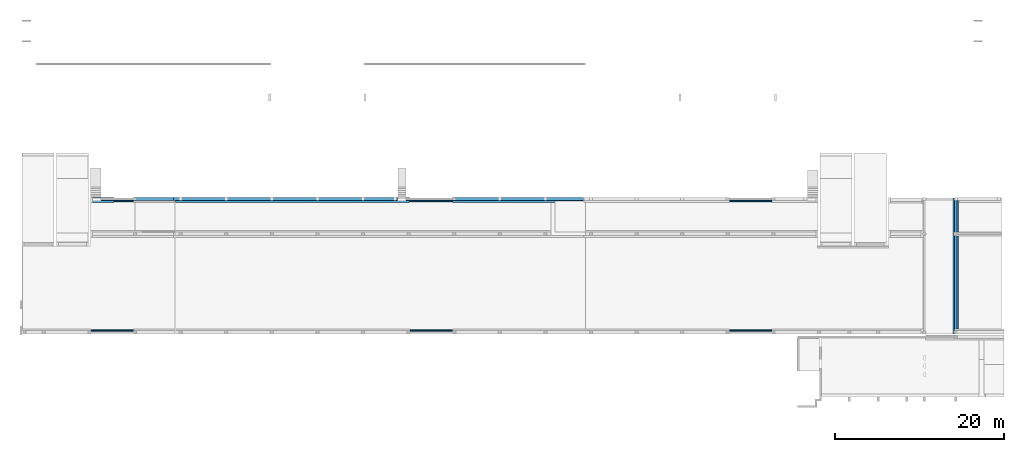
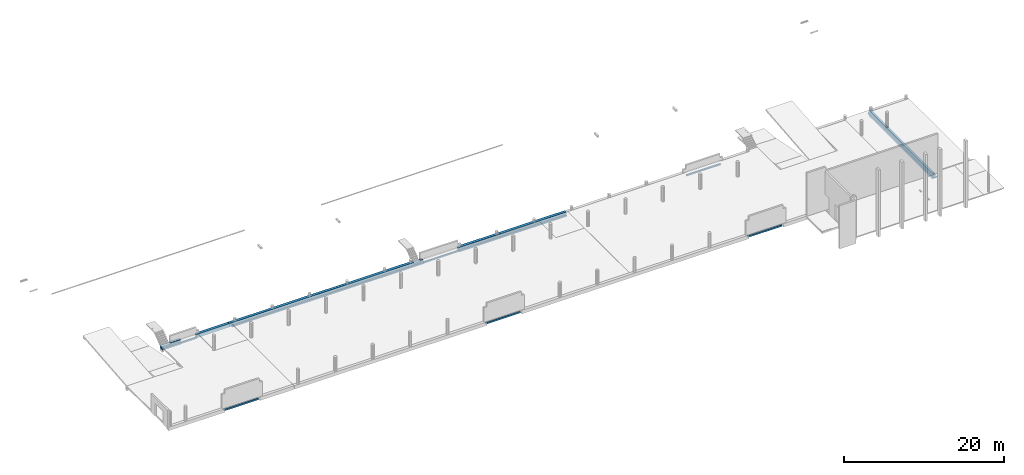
# One storey, part 7 of 9: 6 walls, 5 beams.
"""IFC2X3 building model written with IfcOpenShell, lengths in millimetres."""

from ifc_helpers import new_model, entity, si_unit, converted_unit, derived_unit, direction, frame, origin, place, context, subcontext, project, spatial, faceted_brep, material, type_object, element, save


model = new_model("IFC2X3")

# Units and contexts
model_context = context("Model", 3, precision=0.01, world=origin(), true_north=direction((6.12303176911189e-17, 1.0)))
body_context = subcontext(model_context, "Body", "Model", "MODEL_VIEW")
ifc_project = project(units=[si_unit("LENGTHUNIT", "METRE", prefix="MILLI"), si_unit("AREAUNIT", "SQUARE_METRE"), si_unit("VOLUMEUNIT", "CUBIC_METRE"), converted_unit("PLANEANGLEUNIT", "DEGREE", entity("IfcRatioMeasure", 0.0174532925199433), si_unit("PLANEANGLEUNIT", "RADIAN"), dimensions=[0, 0, 0, 0, 0, 0, 0]), si_unit("MASSUNIT", "GRAM", prefix="KILO"), derived_unit("MASSDENSITYUNIT", [(si_unit("MASSUNIT", "GRAM", prefix="KILO"), 1), (si_unit("LENGTHUNIT", "METRE"), -3)]), si_unit("TIMEUNIT", "SECOND"), si_unit("FREQUENCYUNIT", "HERTZ"), si_unit("THERMODYNAMICTEMPERATUREUNIT", "DEGREE_CELSIUS"), derived_unit("THERMALTRANSMITTANCEUNIT", [(si_unit("MASSUNIT", "GRAM", prefix="KILO"), 1), (si_unit("THERMODYNAMICTEMPERATUREUNIT", "KELVIN"), -1), (si_unit("TIMEUNIT", "SECOND"), -3)]), derived_unit("VOLUMETRICFLOWRATEUNIT", [(si_unit("LENGTHUNIT", "METRE"), 3), (si_unit("TIMEUNIT", "SECOND"), -1)]), si_unit("ELECTRICCURRENTUNIT", "AMPERE"), si_unit("ELECTRICVOLTAGEUNIT", "VOLT"), si_unit("POWERUNIT", "WATT"), si_unit("FORCEUNIT", "NEWTON", prefix="KILO"), si_unit("ILLUMINANCEUNIT", "LUX"), si_unit("LUMINOUSFLUXUNIT", "LUMEN"), si_unit("LUMINOUSINTENSITYUNIT", "CANDELA"), derived_unit("USERDEFINED", [(si_unit("MASSUNIT", "GRAM", prefix="KILO"), -1), (si_unit("LENGTHUNIT", "METRE"), -2), (si_unit("TIMEUNIT", "SECOND"), 3), (si_unit("LUMINOUSFLUXUNIT", "LUMEN"), 1)]), derived_unit("LINEARVELOCITYUNIT", [(si_unit("LENGTHUNIT", "METRE"), 1), (si_unit("TIMEUNIT", "SECOND"), -1)]), si_unit("PRESSUREUNIT", "PASCAL"), derived_unit("USERDEFINED", [(si_unit("LENGTHUNIT", "METRE"), -2), (si_unit("MASSUNIT", "GRAM", prefix="KILO"), 1), (si_unit("TIMEUNIT", "SECOND"), -2)])], contexts=[model_context])

# Site, building, storey
site_placement = place(None, origin())
site = spatial("IfcSite", under=ifc_project, at=site_placement, Name="Default", CompositionType="ELEMENT")
building_placement = place(site_placement, origin())
building = spatial("IfcBuilding", under=site, at=building_placement, Name="niet gebruiken", CompositionType="ELEMENT")
storey_placement = place(building_placement, frame((0.0, 0.0, 5570.0)))
storey = spatial("IfcBuildingStorey", under=building, at=storey_placement, Name="01b tweede tussenverdieping", CompositionType="ELEMENT", Elevation=5570.0)

# Beams
ifc_material = material(Name="NLRS_f2_beton prefab")
beam_type_1 = type_object("IfcBeamType", Name="NLRS_28.11_SF_WPB_prefabbeton balk enkele sponning_gen:600x540/200x200", PredefinedType="BEAM")
beam_1_placement = place(storey_placement, frame((26150.0, 24576.0, -530.0)))
element("IfcBeam", 1, at=beam_1_placement, inside=storey, type_object=beam_type_1, material=ifc_material, Name="NLRS_28.11_SF_WPB_prefabbeton balk enkele sponning_gen:600x540/200x200", ObjectType="NLRS_28.11_SF_WPB_prefabbeton balk enkele sponning_gen:600x540/200x200", context=body_context, shape_type="Brep", body=[
    faceted_brep([(0.0, 200.0, 540.0), (0.0, 600.0, 540.0), (0.0, 600.0, 0.0), (0.0, 200.0, 0.0), (0.0, 200.0, 460.0), (0.0, 200.0, 530.0), (27950.0, 200.0, 200.0), (27950.0, 0.0, 200.0), (27950.0, 0.0, 0.0), (27950.0, 600.0, 0.0), (27950.0, 600.0, 540.0), (27950.0, 200.0, 540.0), (27950.0, 200.0, 530.0), (27950.0, 275.0, 530.0), (27950.0, 275.0, 460.0), (27950.0, 200.0, 460.0), (26550.0, 200.0, 540.0), (26550.0, 600.0, 540.0), (27540.0, 200.0, 460.0), (27540.0, 200.0, 390.0), (26550.0, 200.0, 390.0), (26550.0, 200.0, 460.0), (26550.0, 200.0, 530.0), (220.0, 200.0, 0.0), (220.0, 200.0, 200.0), (220.0, 0.0, 200.0), (220.0, 0.0, 0.0), (26550.0, 600.0, 390.0), (27540.0, 600.0, 390.0), (27540.0, 600.0, 540.0), (27540.0, 275.0, 460.0), (27540.0, 200.0, 540.0), (27540.0, 275.0, 530.0), (27540.0, 200.0, 530.0)], [[[0, 1, 2, 3, 4, 5]], [[6, 7, 8, 9, 10, 11, 12, 13, 14, 15]], [[1, 0, 16, 17]], [[6, 15, 18, 19, 20, 21, 22, 16, 0, 5, 4, 3, 23, 24]], [[7, 6, 24, 25]], [[8, 7, 25, 26]], [[9, 8, 26, 23, 3, 2]], [[2, 1, 17, 27, 28, 29, 10, 9]], [[18, 15, 14, 30]], [[31, 29, 28, 19, 18, 30, 32, 33]], [[17, 16, 22, 21, 20, 27]], [[14, 13, 32, 30]], [[12, 33, 32, 13]], [[11, 10, 29, 31]], [[12, 11, 31, 33]], [[24, 23, 26, 25]], [[27, 20, 19, 28]]]),
])
beam_2_placement = place(storey_placement, frame((16345.0, 24576.0, -530.0)))
element("IfcBeam", 2, at=beam_2_placement, inside=storey, type_object=beam_type_1, material=ifc_material, Name="NLRS_28.11_SF_WPB_prefabbeton balk enkele sponning_gen:600x540/200x200", ObjectType="NLRS_28.11_SF_WPB_prefabbeton balk enkele sponning_gen:600x540/200x200", context=body_context, shape_type="Brep", body=[
    faceted_brep([(0.0, 600.0, 0.0), (0.0, 0.0, 0.0), (0.0, 0.0, 200.0), (0.0, 200.0, 200.0), (0.0, 200.0, 390.0), (0.0, 600.0, 390.0), (2755.0, 200.0, 200.0), (2755.0, 0.0, 200.0), (2755.0, 0.0, 0.0), (2755.0, 600.0, 0.0), (2755.0, 600.0, 540.0), (2755.0, 200.0, 540.0), (2755.0, 200.0, 530.0), (2755.0, 275.0, 530.0), (2755.0, 275.0, 460.0), (2755.0, 255.0, 460.0), (2755.0, 255.0, 205.0), (2755.0, 200.0, 205.0), (1250.0, 600.0, 540.0), (1250.0, 200.0, 540.0), (1250.0, 200.0, 530.0), (1250.0, 600.0, 390.0), (1250.0, 275.0, 460.0), (1250.0, 255.0, 460.0), (1250.0, 275.0, 530.0), (1250.0, 200.0, 205.0), (1250.0, 200.0, 390.0), (1250.0, 255.0, 390.0), (1250.0, 255.0, 205.0)], [[[0, 1, 2, 3, 4, 5]], [[6, 7, 8, 9, 10, 11, 12, 13, 14, 15, 16, 17]], [[11, 10, 18, 19]], [[12, 11, 19, 20]], [[3, 2, 7, 6]], [[2, 1, 8, 7]], [[1, 0, 9, 8]], [[10, 9, 0, 5, 21, 18]], [[14, 22, 23, 15]], [[22, 14, 13, 24]], [[24, 13, 12, 20]], [[3, 6, 17, 25, 26, 4]], [[19, 18, 21, 27, 23, 22, 24, 20]], [[16, 28, 25, 17]], [[28, 27, 26, 25]], [[27, 28, 16, 15, 23]], [[5, 4, 26, 27, 21]]]),
])
beam_3_placement = place(storey_placement, frame((59200.0, 24576.0, -530.0)))
element("IfcBeam", 3, at=beam_3_placement, inside=storey, type_object=beam_type_1, material=ifc_material, Name="NLRS_28.11_SF_WPB_prefabbeton balk enkele sponning_gen:600x540/200x200", ObjectType="NLRS_28.11_SF_WPB_prefabbeton balk enkele sponning_gen:600x540/200x200", context=body_context, shape_type="Brep", body=[
    faceted_brep([(0.0, 600.0, 0.0), (0.0, 0.0, 0.0), (0.0, 0.0, 200.0), (0.0, 200.0, 200.0), (0.0, 200.0, 460.0), (0.0, 275.0, 460.0), (0.0, 275.0, 530.0), (0.0, 200.0, 530.0), (0.0, 200.0, 540.0), (0.0, 600.0, 540.0), (15530.0, 200.0, 200.0), (15530.0, 0.0, 200.0), (15530.0, 0.0, 0.0), (15530.0, 600.0, 0.0), (15530.0, 600.0, 540.0), (15530.0, 200.0, 540.0), (15530.0, 200.0, 530.0), (15530.0, 200.0, 460.0), (11650.0, 200.0, 530.0), (11650.0, 200.0, 460.0), (400.0, 600.0, 460.0), (11650.0, 600.0, 460.0), (11650.0, 600.0, 530.0), (400.0, 600.0, 530.0), (400.0, 275.0, 460.0), (400.0, 275.0, 530.0)], [[[0, 1, 2, 3, 4, 5, 6, 7, 8, 9]], [[10, 11, 12, 13, 14, 15, 16, 17]], [[9, 8, 15, 14]], [[15, 8, 7, 18, 19, 4, 3, 10, 17, 16]], [[3, 2, 11, 10]], [[2, 1, 12, 11]], [[1, 0, 13, 12]], [[0, 9, 14, 13], [20, 21, 22, 23]], [[20, 24, 5, 4, 19, 21]], [[21, 19, 18, 22]], [[24, 25, 6, 5]], [[24, 20, 23, 25]], [[25, 23, 22, 18, 7, 6]]]),
])
beam_type_2 = type_object("IfcBeamType", Name="NLRS_28.11_SF_WPB_prefabbeton balk dubbele sponning_gen:800x600/200x150/200x270", PredefinedType="BEAM")
beam_4_placement = place(storey_placement, frame((118450.0, 8996.0, -670.0), z_axis=(0.0, 0.0, 1.0), x_axis=(0.0, 1.0, 0.0)))
element("IfcBeam", 4, at=beam_4_placement, inside=storey, type_object=beam_type_2, material=ifc_material, Name="NLRS_28.11_SF_WPB_prefabbeton balk dubbele sponning_gen:800x600/200x150/200x270", ObjectType="NLRS_28.11_SF_WPB_prefabbeton balk dubbele sponning_gen:800x600/200x150/200x270", context=body_context, shape_type="Brep", body=[
    faceted_brep([(0.0, -200.0, 450.0), (0.0, 0.0, 450.0), (0.0, 0.0, 0.0), (0.0, -700.0, 0.0), (0.0, -700.0, 140.0), (0.0, -200.0, 140.0), (12100.0, -700.0, 330.0), (12100.0, -700.0, 0.0), (15855.0, -700.0, 0.0), (15855.0, -700.0, 120.0), (16105.0, -700.0, 120.0), (16105.0, -700.0, 330.0), (16105.0, -500.0, 600.0), (16105.0, -500.0, 330.0), (16105.0, 0.0, 120.0), (16105.0, 0.0, 450.0), (16105.0, -200.0, 450.0), (16105.0, -200.0, 600.0), (400.0, -200.0, 600.0), (400.0, -500.0, 600.0), (11750.0, -500.0, 600.0), (11750.0, -200.0, 600.0), (400.0, -200.0, 450.0), (11750.0, -200.0, 450.0), (11750.0, -105.0, 450.0), (11950.0, -105.0, 450.0), (11950.0, -200.0, 450.0), (400.0, -500.0, 340.0), (600.0, -500.0, 340.0), (600.0, -500.0, 330.0), (11600.0, -500.0, 330.0), (11750.0, -500.0, 330.0), (600.0, -700.0, 330.0), (11600.0, -700.0, 330.0), (15855.0, 0.0, 120.0), (15855.0, 0.0, 0.0), (12100.0, -105.0, 0.0), (11600.0, -105.0, 0.0), (11600.0, -700.0, 0.0), (600.0, -200.0, 340.0), (400.0, -200.0, 340.0), (600.0, -200.0, 140.0), (600.0, -700.0, 140.0), (12100.0, -105.0, 330.0), (11950.0, -105.0, 330.0), (11750.0, -105.0, 330.0), (11600.0, -105.0, 330.0), (11950.0, -500.0, 330.0), (11950.0, -500.0, 600.0), (11950.0, -200.0, 600.0), (12100.0, -500.0, 330.0)], [[[0, 1, 2, 3, 4, 5]], [[6, 7, 8, 9, 10, 11]], [[12, 13, 11, 10, 14, 15, 16, 17]], [[18, 19, 20, 21]], [[22, 18, 21, 23]], [[1, 0, 22, 23, 24, 25, 26, 16, 15]], [[19, 27, 28, 29, 30, 31, 20]], [[29, 32, 33, 30]], [[2, 1, 15, 14, 34, 35]], [[3, 2, 35, 8, 7, 36, 37, 38]], [[39, 40, 22, 0, 5, 41]], [[40, 27, 19, 18, 22]], [[40, 39, 28, 27]], [[39, 41, 42, 32, 29, 28]], [[41, 5, 4, 42]], [[43, 44, 25, 24, 45, 46, 37, 36]], [[37, 46, 30, 33, 38]], [[44, 47, 48, 49, 26, 25]], [[44, 43, 50, 47]], [[31, 45, 24, 23, 21, 20]], [[46, 45, 31, 30]], [[43, 36, 7, 6, 50]], [[32, 42, 4, 3, 38, 33]], [[12, 17, 49, 48]], [[17, 16, 26, 49]], [[13, 12, 48, 47, 50]], [[11, 13, 50, 6]], [[34, 9, 8, 35]], [[9, 34, 14, 10]]]),
])
beam_type_3 = type_object("IfcBeamType", Name="NLRS_28.11_SF_WPB_prefabbeton balk recht_gen:400x540", PredefinedType="BEAM")
beam_5_placement = place(storey_placement, frame((21400.0, 24776.0, -530.0)))
element("IfcBeam", 5, at=beam_5_placement, inside=storey, type_object=beam_type_3, material=ifc_material, Name="NLRS_28.11_SF_WPB_prefabbeton balk recht_gen:400x540", ObjectType="NLRS_28.11_SF_WPB_prefabbeton balk recht_gen:400x540", context=body_context, shape_type="Brep", body=[
    faceted_brep([(0.0, 0.0, 540.0), (0.0, 400.0, 540.0), (0.0, 400.0, 0.0), (0.0, 0.0, 0.0), (0.0, 0.0, 460.0), (0.0, 75.0, 460.0), (0.0, 75.0, 530.0), (0.0, 0.0, 530.0), (4730.0, 0.0, 540.0), (4730.0, 400.0, 540.0), (170.0, 0.0, 460.0), (170.0, 75.0, 460.0), (170.0, 75.0, 530.0), (170.0, 0.0, 530.0), (400.0, 75.0, 460.0), (200.0, 75.0, 460.0), (200.0, 0.0, 460.0), (400.0, 0.0, 460.0), (400.0, 75.0, 530.0), (400.0, 0.0, 530.0), (200.0, 0.0, 530.0), (200.0, 75.0, 530.0), (4730.0, 0.0, 530.0), (4730.0, 0.0, 460.0), (4730.0, 0.0, 0.0), (4730.0, 400.0, 0.0)], [[[0, 1, 2, 3, 4, 5, 6, 7]], [[8, 9, 1, 0]], [[10, 11, 5, 4]], [[6, 12, 13, 7]], [[12, 11, 10, 13]], [[11, 12, 6, 5]], [[14, 15, 16, 17]], [[18, 19, 20, 21]], [[15, 21, 20, 16]], [[15, 14, 18, 21]], [[14, 17, 19, 18]], [[9, 8, 22, 23, 24, 25]], [[3, 24, 23, 22, 8, 0, 7, 13, 10, 4], [17, 16, 20, 19]], [[3, 2, 25, 24]], [[2, 1, 9, 25]]]),
])

# Walls
wall_type = type_object("IfcWallType", Name="NLRS_21.21_SF_WPB_oplegnok prefabbeton_gen:200x250 afschuining", PredefinedType="NOTDEFINED", material=ifc_material)
wall_1_placement = place(storey_placement, frame((16420.0, 9321.0, -580.0)))
element("IfcWall", 6, at=wall_1_placement, inside=storey, type_object=wall_type, material=ifc_material, Name="NLRS_21.21_SF_WPB_oplegnok prefabbeton_gen:200x250 afschuining", ObjectType="NLRS_21.21_SF_WPB_oplegnok prefabbeton_gen:200x250 afschuining", context=body_context, shape_type="Brep", body=[
    faceted_brep([(4.8512447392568e-09, 0.0, 250.0), (4.8512447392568e-09, 200.0, 250.0), (4.8512447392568e-09, 200.0, 49.9768447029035), (4.8512447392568e-09, 0.0, 0.0), (4.8512447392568e-09, 0.0, 30.0), (4960.0, 0.0, 250.0), (4960.0, 0.0, 30.0), (4960.0, 0.0, 0.0), (4960.0, 200.0, 49.9768447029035), (4960.0, 200.0, 250.0)], [[[0, 1, 2, 3, 4]], [[5, 6, 7, 8, 9]], [[3, 7, 6, 5, 0, 4]], [[1, 9, 8, 2]], [[0, 5, 9, 1]], [[2, 8, 7, 3]]]),
])
wall_2_placement = place(storey_placement, frame((19120.0, 24651.0, -580.0)))
element("IfcWall", 7, at=wall_2_placement, inside=storey, type_object=wall_type, material=ifc_material, Name="NLRS_21.21_SF_WPB_oplegnok prefabbeton_gen:200x250 afschuining", ObjectType="NLRS_21.21_SF_WPB_oplegnok prefabbeton_gen:200x250 afschuining", context=body_context, shape_type="Brep", body=[
    faceted_brep([(0.0, 200.0, 250.0), (0.0, 200.0, 30.0), (0.0, 200.0, 0.0), (0.0, 0.0, 49.9768447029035), (0.0, 0.0, 250.0), (2260.0, 200.0, 250.0), (2260.0, 0.0, 250.0), (2260.0, 0.0, 49.9768447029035), (2260.0, 200.0, 0.0), (2260.0, 200.0, 30.0)], [[[0, 1, 2, 3, 4]], [[5, 6, 7, 8, 9]], [[2, 1, 0, 5, 9, 8]], [[4, 3, 7, 6]], [[0, 4, 6, 5]], [[3, 2, 8, 7]]]),
])
wall_3_placement = place(storey_placement, frame((54120.0, 24651.0, -580.0)))
element("IfcWall", 8, at=wall_3_placement, inside=storey, type_object=wall_type, material=ifc_material, Name="NLRS_21.21_SF_WPB_oplegnok prefabbeton_gen:200x250 afschuining", ObjectType="NLRS_21.21_SF_WPB_oplegnok prefabbeton_gen:200x250 afschuining", context=body_context, shape_type="Brep", body=[
    faceted_brep([(0.0, 200.0, 250.0), (0.0, 200.0, 30.0), (0.0, 200.0, 0.0), (0.0, 0.0, 49.9768447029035), (0.0, 0.0, 250.0), (5060.0, 200.0, 250.0), (5060.0, 0.0, 250.0), (5060.0, 0.0, 49.9768447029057), (5060.0, 200.0, 0.0), (5060.0, 200.0, 30.0)], [[[0, 1, 2, 3, 4]], [[5, 6, 7, 8, 9]], [[2, 1, 0, 5, 9, 8]], [[4, 3, 7, 6]], [[0, 4, 6, 5]], [[3, 2, 8, 7]]]),
])
wall_4_placement = place(storey_placement, frame((92020.0, 24651.0, -580.0)))
element("IfcWall", 9, at=wall_4_placement, inside=storey, type_object=wall_type, material=ifc_material, Name="NLRS_21.21_SF_WPB_oplegnok prefabbeton_gen:200x250 afschuining", ObjectType="NLRS_21.21_SF_WPB_oplegnok prefabbeton_gen:200x250 afschuining", context=body_context, shape_type="Brep", body=[
    faceted_brep([(0.0, 200.0, 250.0), (0.0, 200.0, 30.0), (0.0, 200.0, 0.0), (0.0, 0.0, 49.9768447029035), (0.0, 0.0, 250.0), (4960.0, 200.0, 250.0), (4960.0, 0.0, 250.0), (4960.0, 0.0, 49.9768447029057), (4960.0, 200.0, 0.0), (4960.0, 200.0, 30.0)], [[[0, 1, 2, 3, 4]], [[5, 6, 7, 8, 9]], [[2, 1, 0, 5, 9, 8]], [[4, 3, 7, 6]], [[0, 4, 6, 5]], [[3, 2, 8, 7]]]),
])
wall_5_placement = place(storey_placement, frame((92020.0, 9321.0, -580.0)))
element("IfcWall", 10, at=wall_5_placement, inside=storey, type_object=wall_type, material=ifc_material, Name="NLRS_21.21_SF_WPB_oplegnok prefabbeton_gen:200x250 afschuining", ObjectType="NLRS_21.21_SF_WPB_oplegnok prefabbeton_gen:200x250 afschuining", context=body_context, shape_type="Brep", body=[
    faceted_brep([(0.0, 0.0, 250.0), (0.0, 200.0, 250.0), (0.0, 200.0, 49.9768447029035), (0.0, 0.0, 0.0), (0.0, 0.0, 30.0), (4960.0, 0.0, 250.0), (4960.0, 0.0, 30.0), (4960.0, 0.0, 0.0), (4960.0, 200.0, 49.9768447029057), (4960.0, 200.0, 250.0)], [[[0, 1, 2, 3, 4]], [[5, 6, 7, 8, 9]], [[3, 7, 6, 5, 0, 4]], [[1, 9, 8, 2]], [[0, 5, 9, 1]], [[2, 8, 7, 3]]]),
])
wall_6_placement = place(storey_placement, frame((54220.0, 9321.0, -580.0)))
element("IfcWall", 11, at=wall_6_placement, inside=storey, type_object=wall_type, material=ifc_material, Name="NLRS_21.21_SF_WPB_oplegnok prefabbeton_gen:200x250 afschuining", ObjectType="NLRS_21.21_SF_WPB_oplegnok prefabbeton_gen:200x250 afschuining", context=body_context, shape_type="Brep", body=[
    faceted_brep([(2.39963355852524e-09, 0.0, 250.0), (2.39963355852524e-09, 200.0, 250.0), (2.39963355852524e-09, 200.0, 49.9768447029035), (2.39963355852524e-09, 0.0, 0.0), (2.39963355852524e-09, 0.0, 30.0), (4960.0, 0.0, 250.0), (4960.0, 0.0, 30.0), (4960.0, 0.0, 0.0), (4960.0, 200.0, 49.9768447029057), (4960.0, 200.0, 250.0)], [[[0, 1, 2, 3, 4]], [[5, 6, 7, 8, 9]], [[3, 7, 6, 5, 0, 4]], [[1, 9, 8, 2]], [[0, 5, 9, 1]], [[2, 8, 7, 3]]]),
])

save(model, "model.ifc")
